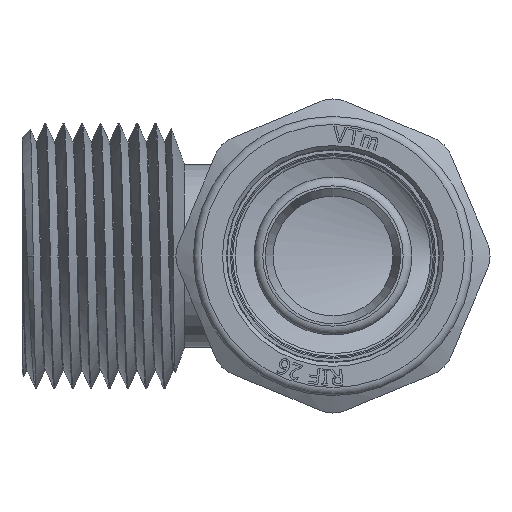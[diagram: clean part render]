
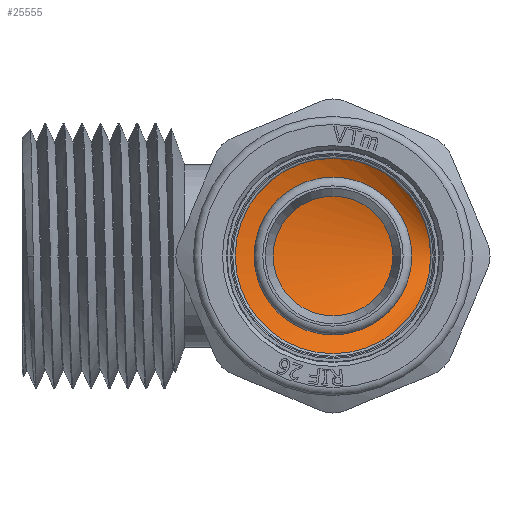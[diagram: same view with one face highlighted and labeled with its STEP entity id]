
A CAD part, left-side view. The second image highlights one B-rep face of the part: STEP entity #25555.
In plain terms, the highlighted cylindrical face has radius 15.25 mm (diameter 30.5 mm), a full revolution.
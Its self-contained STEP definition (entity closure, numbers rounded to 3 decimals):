
#1427=FACE_OUTER_BOUND('',#2870,.T.);
#2870=EDGE_LOOP('',(#17135,#17136,#17137,#17138,#17139,#17140,#17141,#17142));
#4432=CIRCLE('',#27021,15.25);
#4433=CIRCLE('',#27022,15.25);
#4434=CIRCLE('',#27023,15.25);
#5033=B_SPLINE_CURVE_WITH_KNOTS('',3,(#32608,#32609,#32610,#32611,#32612,
#32613,#32614,#32615,#32616,#32617,#32618,#32619,#32620,#32621,#32622,#32623,
#32624,#32625,#32626,#32627,#32628,#32629,#32630,#32631,#32632,#32633,#32634,
#32635,#32636,#32637,#32638,#32639,#32640,#32641),.UNSPECIFIED.,.F.,.F.,
(4,3,3,3,3,3,3,3,3,3,3,4),(1.209,1.479,1.972,
2.465,2.958,3.451,3.944,4.437,
4.93,5.424,5.917,6.096),
 .UNSPECIFIED.);
#5034=B_SPLINE_CURVE_WITH_KNOTS('',3,(#32644,#32645,#32646,#32647,#32648,
#32649,#32650,#32651,#32652,#32653),.UNSPECIFIED.,.F.,.F.,(4,3,3,4),(-1.271,
-0.973,-0.486,-0.148),.UNSPECIFIED.);
#6771=LINE('',#32606,#8505);
#6772=LINE('',#32655,#8506);
#8505=VECTOR('',#28306,15.25);
#8506=VECTOR('',#28309,15.25);
#10239=VERTEX_POINT('',#32604);
#10240=VERTEX_POINT('',#32605);
#10241=VERTEX_POINT('',#32607);
#10242=VERTEX_POINT('',#32642);
#10243=VERTEX_POINT('',#32654);
#10244=VERTEX_POINT('',#32656);
#13022=EDGE_CURVE('',#10239,#10240,#6771,.T.);
#13023=EDGE_CURVE('',#10241,#10239,#5033,.T.);
#13024=EDGE_CURVE('',#10242,#10241,#4432,.T.);
#13025=EDGE_CURVE('',#10240,#10242,#5034,.T.);
#13026=EDGE_CURVE('',#10240,#10243,#6772,.T.);
#13027=EDGE_CURVE('',#10244,#10243,#4433,.T.);
#13028=EDGE_CURVE('',#10243,#10244,#4434,.T.);
#17135=ORIENTED_EDGE('',*,*,#13022,.F.);
#17136=ORIENTED_EDGE('',*,*,#13023,.F.);
#17137=ORIENTED_EDGE('',*,*,#13024,.F.);
#17138=ORIENTED_EDGE('',*,*,#13025,.F.);
#17139=ORIENTED_EDGE('',*,*,#13026,.T.);
#17140=ORIENTED_EDGE('',*,*,#13027,.F.);
#17141=ORIENTED_EDGE('',*,*,#13028,.F.);
#17142=ORIENTED_EDGE('',*,*,#13026,.F.);
#25361=CYLINDRICAL_SURFACE('',#27020,15.25);
#25555=ADVANCED_FACE('',(#1427),#25361,.F.);
#27020=AXIS2_PLACEMENT_3D('',#32603,#28304,#28305);
#27021=AXIS2_PLACEMENT_3D('',#32643,#28307,#28308);
#27022=AXIS2_PLACEMENT_3D('',#32657,#28310,#28311);
#27023=AXIS2_PLACEMENT_3D('',#32658,#28312,#28313);
#28304=DIRECTION('center_axis',(1.,0.,0.));
#28305=DIRECTION('ref_axis',(0.,1.,0.));
#28306=DIRECTION('',(-1.,0.,0.));
#28307=DIRECTION('center_axis',(-1.,0.,0.));
#28308=DIRECTION('ref_axis',(0.,1.,0.));
#28309=DIRECTION('',(-1.,0.,0.));
#28310=DIRECTION('center_axis',(1.,0.,0.));
#28311=DIRECTION('ref_axis',(0.,0.,1.));
#28312=DIRECTION('center_axis',(1.,0.,0.));
#28313=DIRECTION('ref_axis',(0.,0.,1.));
#32603=CARTESIAN_POINT('Origin',(-31.82,0.,
0.));
#32604=CARTESIAN_POINT('',(-27.611,-15.25,0.));
#32605=CARTESIAN_POINT('',(-28.989,-15.25,0.));
#32606=CARTESIAN_POINT('',(-31.82,-15.25,0.));
#32607=CARTESIAN_POINT('',(-29.4,-2.658,-15.017));
#32608=CARTESIAN_POINT('Ctrl Pts',(-29.4,-2.658,-15.015));
#32609=CARTESIAN_POINT('Ctrl Pts',(-29.367,-1.303,
-15.255));
#32610=CARTESIAN_POINT('Ctrl Pts',(-29.334,0.084,
-15.313));
#32611=CARTESIAN_POINT('Ctrl Pts',(-29.301,1.453,-15.182));
#32612=CARTESIAN_POINT('Ctrl Pts',(-29.241,3.947,-14.943));
#32613=CARTESIAN_POINT('Ctrl Pts',(-29.181,6.382,-14.077));
#32614=CARTESIAN_POINT('Ctrl Pts',(-29.12,8.466,-12.686));
#32615=CARTESIAN_POINT('Ctrl Pts',(-29.06,10.55,-11.295));
#32616=CARTESIAN_POINT('Ctrl Pts',(-29.,12.284,-9.38));
#32617=CARTESIAN_POINT('Ctrl Pts',(-28.94,13.462,-7.168));
#32618=CARTESIAN_POINT('Ctrl Pts',(-28.88,14.639,-4.956));
#32619=CARTESIAN_POINT('Ctrl Pts',(-28.82,15.261,-2.448));
#32620=CARTESIAN_POINT('Ctrl Pts',(-28.759,15.251,0.057));
#32621=CARTESIAN_POINT('Ctrl Pts',(-28.699,15.242,2.563));
#32622=CARTESIAN_POINT('Ctrl Pts',(-28.639,14.602,5.066));
#32623=CARTESIAN_POINT('Ctrl Pts',(-28.579,13.407,7.269));
#32624=CARTESIAN_POINT('Ctrl Pts',(-28.519,12.213,9.472));
#32625=CARTESIAN_POINT('Ctrl Pts',(-28.459,10.465,11.374));
#32626=CARTESIAN_POINT('Ctrl Pts',(-28.399,8.37,12.749));
#32627=CARTESIAN_POINT('Ctrl Pts',(-28.338,6.275,14.124));
#32628=CARTESIAN_POINT('Ctrl Pts',(-28.278,3.835,14.972));
#32629=CARTESIAN_POINT('Ctrl Pts',(-28.218,1.339,15.192));
#32630=CARTESIAN_POINT('Ctrl Pts',(-28.158,-1.157,
15.412));
#32631=CARTESIAN_POINT('Ctrl Pts',(-28.098,-3.709,15.004));
#32632=CARTESIAN_POINT('Ctrl Pts',(-28.038,-6.012,
14.016));
#32633=CARTESIAN_POINT('Ctrl Pts',(-27.977,-8.314,
13.029));
#32634=CARTESIAN_POINT('Ctrl Pts',(-27.917,-10.369,11.462));
#32635=CARTESIAN_POINT('Ctrl Pts',(-27.857,-11.93,
9.502));
#32636=CARTESIAN_POINT('Ctrl Pts',(-27.797,-13.491,
7.542));
#32637=CARTESIAN_POINT('Ctrl Pts',(-27.737,-14.559,
5.189));
#32638=CARTESIAN_POINT('Ctrl Pts',(-27.677,-15.006,
2.723));
#32639=CARTESIAN_POINT('Ctrl Pts',(-27.655,-15.169,
1.826));
#32640=CARTESIAN_POINT('Ctrl Pts',(-27.633,-15.25,
0.913));
#32641=CARTESIAN_POINT('Ctrl Pts',(-27.611,-15.249,
0.));
#32642=CARTESIAN_POINT('',(-29.4,-6.611,13.743));
#32643=CARTESIAN_POINT('Origin',(-29.4,0.,0.));
#32644=CARTESIAN_POINT('Ctrl Pts',(-28.989,-15.249,
0.));
#32645=CARTESIAN_POINT('Ctrl Pts',(-29.025,-15.248,
1.515));
#32646=CARTESIAN_POINT('Ctrl Pts',(-29.062,-15.024,
3.03));
#32647=CARTESIAN_POINT('Ctrl Pts',(-29.098,-14.579,
4.478));
#32648=CARTESIAN_POINT('Ctrl Pts',(-29.158,-13.853,
6.841));
#32649=CARTESIAN_POINT('Ctrl Pts',(-29.217,-12.541,
9.025));
#32650=CARTESIAN_POINT('Ctrl Pts',(-29.276,-10.794,
10.774));
#32651=CARTESIAN_POINT('Ctrl Pts',(-29.318,-9.581,
11.989));
#32652=CARTESIAN_POINT('Ctrl Pts',(-29.359,-8.158,
12.995));
#32653=CARTESIAN_POINT('Ctrl Pts',(-29.4,-6.61,
13.741));
#32654=CARTESIAN_POINT('',(-37.245,-15.25,0.));
#32655=CARTESIAN_POINT('',(-31.82,-15.25,0.));
#32656=CARTESIAN_POINT('',(-37.245,15.25,0.));
#32657=CARTESIAN_POINT('Origin',(-37.245,0.,
0.));
#32658=CARTESIAN_POINT('Origin',(-37.245,0.,
0.));
